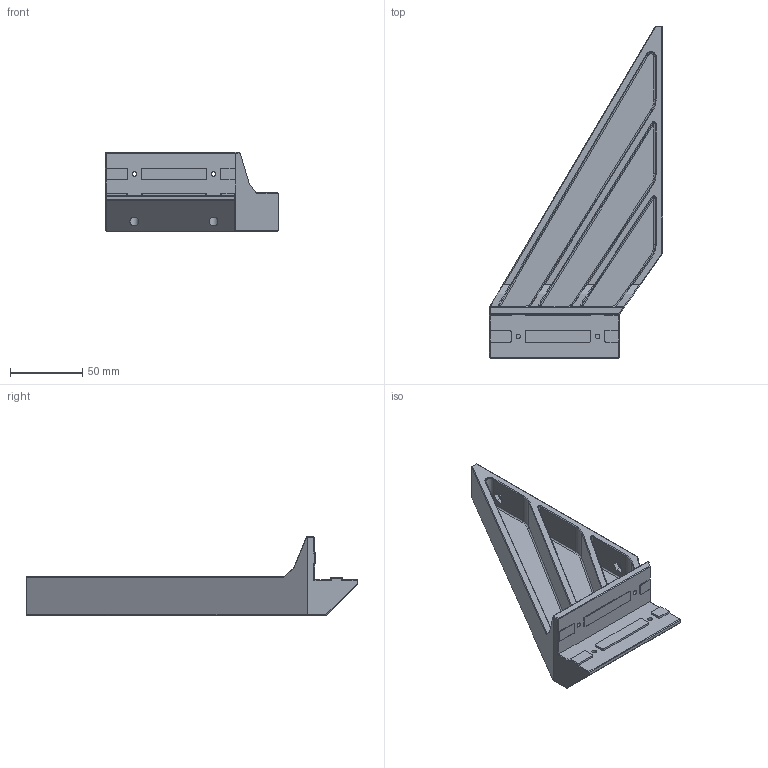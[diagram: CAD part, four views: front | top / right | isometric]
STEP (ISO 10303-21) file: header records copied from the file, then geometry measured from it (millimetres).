
FILE_DESCRIPTION( ( '' ), ' ' );
FILE_NAME( '/vol/tmp/translate-15491238414233482458/5e93a7d42da9d015f5b15a8b.step', '2020-04-12T23:44:21', ( '' ), ( '' ), ' ', ' ', ' ' );
FILE_SCHEMA( ( 'AUTOMOTIVE_DESIGN { 1 0 10303 214 1 1 1 1 }' ) );
Length unit declared in the file: metre
Products named in the file (1): Part 1
Bounding box: 120 x 230 x 54.87 mm (x, y, z)
Volume: 209617.5 mm3; surface area: 71672.5 mm2
Topology: 1 solids, 1 shells, 256 faces, 608 edges, 357 vertices
Faces by surface type: plane 168, cylinder 48, bspline 22, torus 7, cone 6, sphere 5
Full cylindrical faces by diameter (mm): 3.1 x4, 4.1 x2, 6 x2
Entity records: 9233 total; most frequent: CARTESIAN_POINT 1492, ORIENTED_EDGE 1182, DIRECTION 1114, EDGE_CURVE 591, LINE 426, VECTOR 426, VERTEX_POINT 353, AXIS2_PLACEMENT_3D 344
